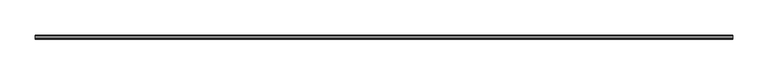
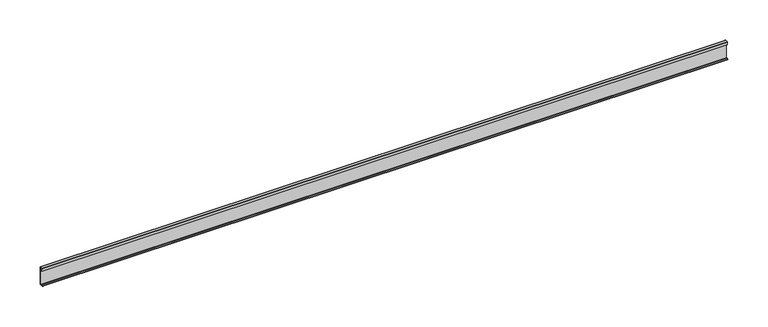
"""IFC4 building model written with IfcOpenShell, lengths in millimetres: proxy geometry, Weiku - Montante - Capa de folha 02.3.02.406 : Weiku - Montante - Capa de folha 02.3.02.406."""

from ifc_helpers import new_model, si_unit, point, frame, frame_2d, origin, place, context, project, spatial, polyline, circle_curve, trimmed, segment, composite_curve, outline, extrude, source, transform, mapped, element, save


def generic_models_4560662d(model_context):
    return source(origin(), model_context, "Body", "SweptSolid", [
        extrude(outline(composite_curve([segment(polyline([(-4.6421508, 2.2715508), (-3.3866, 1.016), (-1.6933, 1.016), (-1.6933, 25.684), (-3.3063, 25.684), (-3.3063, 22.3396), (-4.28, 22.3396), (-4.28, 26.2)]), True, "CONTINUOUS"), segment(trimmed(circle_curve(frame_2d((-3.78, 26.2)), 0.5), [point((-4.28, 26.2))], [point((-3.78, 26.7))], False, "CARTESIAN"), True, "CONTINUOUS"), segment(polyline([(-3.78, 26.7), (-0.5, 26.7)]), True, "CONTINUOUS"), segment(trimmed(circle_curve(frame_2d((-0.5, 26.2)), 0.5), [point((-0.5, 26.7))], [point((0.0, 26.2))], False, "CARTESIAN"), True, "CONTINUOUS"), segment(polyline([(0.0, 26.2), (0.0, 0.5)]), True, "CONTINUOUS"), segment(trimmed(circle_curve(frame_2d((-0.5, 0.5)), 0.5), [point((0.0, 0.5))], [point((-0.5, 0.0))], False, "CARTESIAN"), True, "CONTINUOUS"), segment(polyline([(-0.5, 0.0), (-4.7576991, 0.0)]), True, "CONTINUOUS"), segment(trimmed(circle_curve(frame_2d((-4.7576991, 0.7)), 0.7), [point((-4.7576991, 0.0))], [point((-5.3603515, 1.056104))], False, "CARTESIAN"), True, "CONTINUOUS"), segment(polyline([(-5.3603515, 1.056104), (-4.6421508, 2.2715508)]), True, "CONTINUOUS")], self_intersect=False)), frame((-491.825, 0.0, 0.0), z_axis=(1.0, 0.0, 0.0), x_axis=(0.0, 1.0, 0.0)), (0.0, 0.0, 1.0), 983.65),
    ])


if __name__ == "__main__":
    model = new_model("IFC4")
    model_context = context("Model", 3, world=origin())
    ifc_project = project(units=[si_unit("LENGTHUNIT", "METRE", prefix="MILLI")], contexts=[model_context])
    site = spatial("IfcSite", under=ifc_project)
    building = spatial("IfcBuilding", under=site)
    placement = place(None, origin())
    generic_models_shape = generic_models_4560662d(model_context)
    element("IfcBuildingElementProxy", 1, Name="Weiku - Montante - Capa de folha 02.3.02.406 : Weiku - Montante - Capa de folha 02.3.02.406", ObjectType="Weiku - Montante - Capa de folha 02.3.02.406 : Weiku - Montante - Capa de folha 02.3.02.406", at=placement, inside=building, context=model_context, shape_type="MappedRepresentation", body=[
        mapped(generic_models_shape, transform((0.0, 0.0, 0.0), x_axis=(1.0, 0.0, 0.0), y_axis=(0.0, 1.0, 0.0), z_axis=(0.0, 0.0, 1.0))),
    ])
    save(model, "model.ifc")
